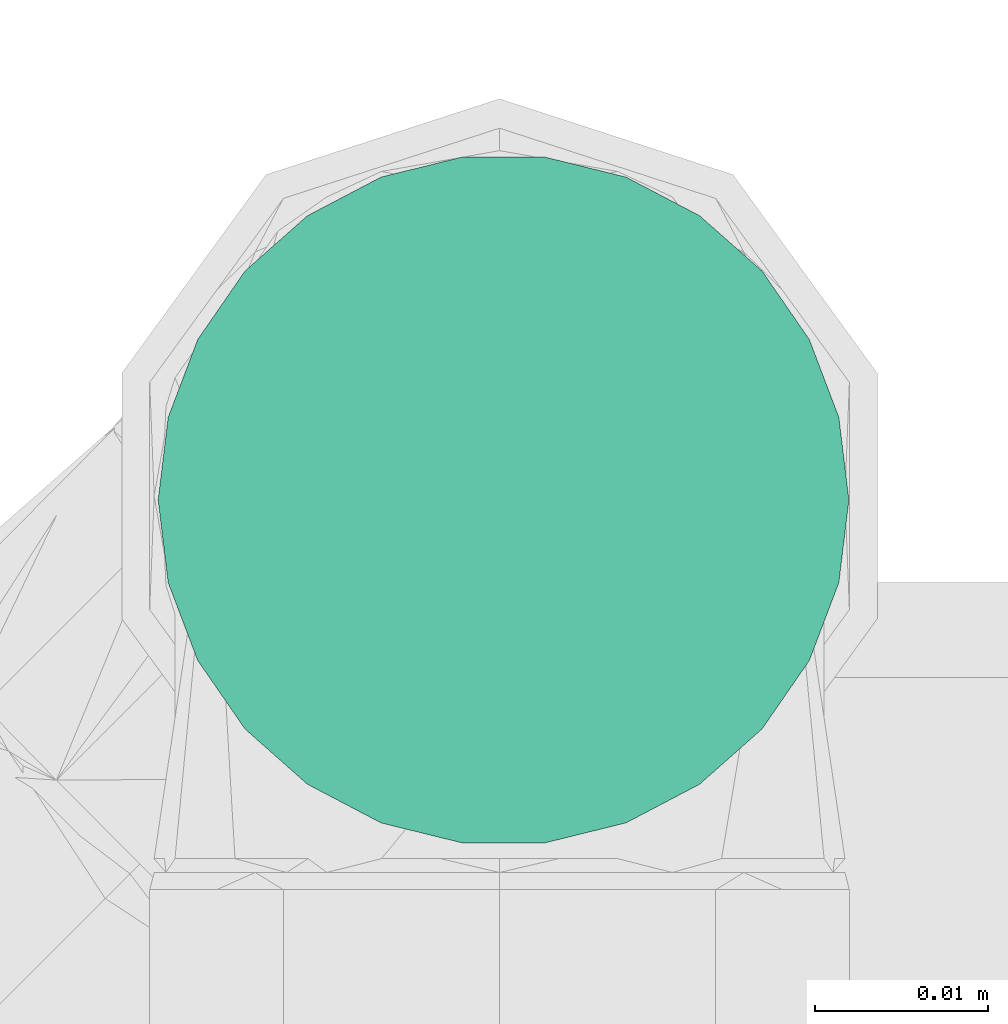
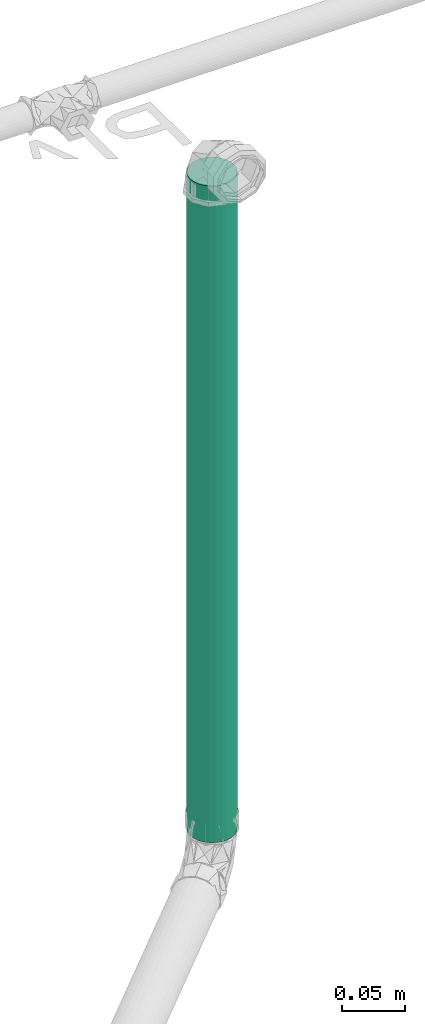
# One storey, part 73 of 589: 1 flow segment.
"""IFC2X3 building model written with IfcOpenShell, lengths in millimetres."""

from ifc_helpers import new_model, entity, si_unit, converted_unit, derived_unit, direction, frame, origin, origin_2d_with_axis, place, context, subcontext, project, spatial, circle, extrude, type_object, element, save


model = new_model("IFC2X3")

# Units and contexts
model_context = context("Model", 3, precision=0.01, world=origin(), true_north=direction((6.123031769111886e-17, 1.0)))
body_context = subcontext(model_context, "Body", "Model", "MODEL_VIEW")
ifc_project = project(units=[si_unit("LENGTHUNIT", "METRE", prefix="MILLI"), si_unit("AREAUNIT", "SQUARE_METRE"), si_unit("VOLUMEUNIT", "CUBIC_METRE"), converted_unit("PLANEANGLEUNIT", "DEGREE", entity("IfcRatioMeasure", 0.017453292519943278), si_unit("PLANEANGLEUNIT", "RADIAN"), dimensions=[0, 0, 0, 0, 0, 0, 0]), si_unit("MASSUNIT", "GRAM", prefix="KILO"), derived_unit("MASSDENSITYUNIT", [(si_unit("MASSUNIT", "GRAM", prefix="KILO"), 1), (si_unit("LENGTHUNIT", "METRE"), -3)]), derived_unit("IONCONCENTRATIONUNIT", [(si_unit("MASSUNIT", "GRAM", prefix="KILO"), 1), (si_unit("LENGTHUNIT", "METRE"), -3)]), derived_unit("MOMENTOFINERTIAUNIT", [(si_unit("LENGTHUNIT", "METRE"), 4)]), si_unit("TIMEUNIT", "SECOND"), si_unit("FREQUENCYUNIT", "HERTZ"), si_unit("THERMODYNAMICTEMPERATUREUNIT", "DEGREE_CELSIUS"), derived_unit("THERMALTRANSMITTANCEUNIT", [(si_unit("MASSUNIT", "GRAM", prefix="KILO"), 1), (si_unit("THERMODYNAMICTEMPERATUREUNIT", "KELVIN"), -1), (si_unit("TIMEUNIT", "SECOND"), -3)]), derived_unit("THERMALCONDUCTANCEUNIT", [(si_unit("MASSUNIT", "GRAM", prefix="KILO"), 1), (si_unit("THERMODYNAMICTEMPERATUREUNIT", "KELVIN"), -1), (si_unit("TIMEUNIT", "SECOND"), -3), (si_unit("LENGTHUNIT", "METRE"), 1)]), derived_unit("VOLUMETRICFLOWRATEUNIT", [(si_unit("LENGTHUNIT", "METRE"), 3), (si_unit("TIMEUNIT", "SECOND"), -1)]), derived_unit("MASSFLOWRATEUNIT", [(si_unit("MASSUNIT", "GRAM", prefix="KILO"), 1), (si_unit("TIMEUNIT", "SECOND"), -1)]), derived_unit("ROTATIONALFREQUENCYUNIT", [(si_unit("TIMEUNIT", "SECOND"), -1)]), si_unit("ELECTRICCURRENTUNIT", "AMPERE"), si_unit("ELECTRICVOLTAGEUNIT", "VOLT"), si_unit("POWERUNIT", "WATT"), si_unit("FORCEUNIT", "NEWTON", prefix="KILO"), si_unit("ILLUMINANCEUNIT", "LUX"), si_unit("LUMINOUSFLUXUNIT", "LUMEN"), si_unit("LUMINOUSINTENSITYUNIT", "CANDELA"), derived_unit("USERDEFINED", [(si_unit("MASSUNIT", "GRAM", prefix="KILO"), -1), (si_unit("LENGTHUNIT", "METRE"), -2), (si_unit("TIMEUNIT", "SECOND"), 3), (si_unit("LUMINOUSFLUXUNIT", "LUMEN"), 1)]), derived_unit("USERDEFINED", [(si_unit("MASSUNIT", "GRAM", prefix="KILO"), 1), (si_unit("TIMEUNIT", "SECOND"), -3), (si_unit("LENGTHUNIT", "METRE"), 3), (si_unit("ELECTRICCURRENTUNIT", "AMPERE"), -2)]), derived_unit("SOUNDPOWERUNIT", [(si_unit("MASSUNIT", "GRAM", prefix="KILO"), 1), (si_unit("TIMEUNIT", "SECOND"), -3), (si_unit("LENGTHUNIT", "METRE"), 2)]), derived_unit("SOUNDPRESSUREUNIT", [(si_unit("MASSUNIT", "GRAM", prefix="KILO"), 1), (si_unit("LENGTHUNIT", "METRE"), -1), (si_unit("TIMEUNIT", "SECOND"), -2)]), derived_unit("LINEARVELOCITYUNIT", [(si_unit("LENGTHUNIT", "METRE"), 1), (si_unit("TIMEUNIT", "SECOND"), -1)]), si_unit("PRESSUREUNIT", "PASCAL"), derived_unit("USERDEFINED", [(si_unit("MASSUNIT", "GRAM", prefix="KILO"), 1), (si_unit("LENGTHUNIT", "METRE"), -2), (si_unit("TIMEUNIT", "SECOND"), -2)]), derived_unit("LINEARFORCEUNIT", [(si_unit("MASSUNIT", "GRAM", prefix="KILO"), 1), (si_unit("TIMEUNIT", "SECOND"), -2)]), derived_unit("PLANARFORCEUNIT", [(si_unit("MASSUNIT", "GRAM", prefix="KILO"), 1), (si_unit("LENGTHUNIT", "METRE"), -1), (si_unit("TIMEUNIT", "SECOND"), -2)]), derived_unit("SPECIFICHEATCAPACITYUNIT", [(si_unit("THERMODYNAMICTEMPERATUREUNIT", "KELVIN"), -1), (si_unit("LENGTHUNIT", "METRE"), 2), (si_unit("TIMEUNIT", "SECOND"), -2)]), derived_unit("HEATINGVALUEUNIT", [(si_unit("LENGTHUNIT", "METRE"), 2), (si_unit("TIMEUNIT", "SECOND"), -2)]), derived_unit("VAPORPERMEABILITYUNIT", [(si_unit("LENGTHUNIT", "METRE"), -1), (si_unit("TIMEUNIT", "SECOND"), 1)]), derived_unit("DYNAMICVISCOSITYUNIT", [(si_unit("MASSUNIT", "GRAM", prefix="KILO"), 1), (si_unit("TIMEUNIT", "SECOND"), -1), (si_unit("LENGTHUNIT", "METRE"), -1)]), derived_unit("THERMALEXPANSIONCOEFFICIENTUNIT", [(si_unit("THERMODYNAMICTEMPERATUREUNIT", "KELVIN"), -1)]), derived_unit("MODULUSOFELASTICITYUNIT", [(si_unit("MASSUNIT", "GRAM", prefix="KILO"), 1), (si_unit("LENGTHUNIT", "METRE"), -1), (si_unit("TIMEUNIT", "SECOND"), -2)]), derived_unit("ISOTHERMALMOISTURECAPACITYUNIT", [(si_unit("LENGTHUNIT", "METRE"), 3), (si_unit("MASSUNIT", "GRAM", prefix="KILO"), -1)]), derived_unit("MOISTUREDIFFUSIVITYUNIT", [(si_unit("TIMEUNIT", "SECOND"), -1), (si_unit("LENGTHUNIT", "METRE"), 2)])], contexts=[model_context])

# Site, building, storey
site_placement = place(None, origin())
site = spatial("IfcSite", under=ifc_project, at=site_placement, Name="Default", CompositionType="ELEMENT")
building_placement = place(site_placement, origin())
building = spatial("IfcBuilding", under=site, at=building_placement, CompositionType="ELEMENT")
storey_placement = place(building_placement, frame((0.0, 0.0, 100.0)))
storey = spatial("IfcBuildingStorey", under=building, at=storey_placement, Name="TÉRREO", CompositionType="ELEMENT", Elevation=100.0)

# Flow segment
pipe_segment_type = type_object("IfcPipeSegmentType", Name="Tipos de tubos:PVC Esgoto Série Normal", PredefinedType="NOTDEFINED")
flow_segment_placement = place(storey_placement, origin())
element("IfcFlowSegment", 1, at=flow_segment_placement, inside=storey, type_object=pipe_segment_type, Name="Tipos de tubos:PVC Esgoto Série Normal", ObjectType="Tipos de tubos:PVC Esgoto Série Normal", context=body_context, shape_type="SweptSolid", body=[
    extrude(circle(Radius=20.0, at=origin_2d_with_axis()), frame((-5943.074824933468, -4304.85641121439, -159.67867048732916)), (0.0, 0.0, 1.0), 632.8786704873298),
])

save(model, "model.ifc")
